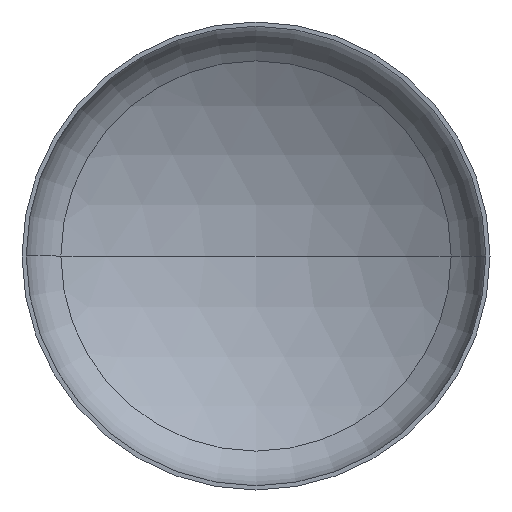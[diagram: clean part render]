
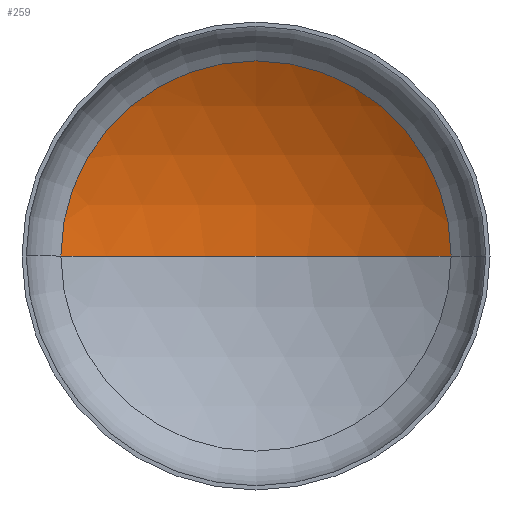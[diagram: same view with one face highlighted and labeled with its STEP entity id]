
A CAD part, front view. The second image highlights one B-rep face of the part: STEP entity #259.
In plain terms, the highlighted spherical face has radius 3600 mm.
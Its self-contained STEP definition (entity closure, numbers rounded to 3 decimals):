
#5 = ORIENTED_EDGE ( 'NONE', *, *, #120, .F. ) ;
#22 = CARTESIAN_POINT ( 'NONE',  ( -1876.213, 723.15, 0. ) ) ;
#33 = AXIS2_PLACEMENT_3D ( 'NONE', #278, #35, #359 ) ;
#35 = DIRECTION ( 'NONE',  ( 0., 0., -1. ) ) ;
#37 = VERTEX_POINT ( 'NONE', #22 ) ;
#41 = AXIS2_PLACEMENT_3D ( 'NONE', #272, #276, #191 ) ;
#43 = AXIS2_PLACEMENT_3D ( 'NONE', #407, #174, #71 ) ;
#44 = VERTEX_POINT ( 'NONE', #324 ) ;
#46 = AXIS2_PLACEMENT_3D ( 'NONE', #175, #203, #198 ) ;
#57 = ORIENTED_EDGE ( 'NONE', *, *, #114, .T. ) ;
#59 = VERTEX_POINT ( 'NONE', #318 ) ;
#71 = DIRECTION ( 'NONE',  ( -1., 0., 0. ) ) ;
#83 = CIRCLE ( 'NONE', #46, 1876.213 ) ;
#93 = EDGE_LOOP ( 'NONE', ( #5, #150, #57 ) ) ;
#114 = EDGE_CURVE ( 'NONE', #59, #37, #83, .T. ) ;
#118 = EDGE_CURVE ( 'NONE', #44, #59, #370, .T. ) ;
#120 = EDGE_CURVE ( 'NONE', #44, #37, #317, .T. ) ;
#150 = ORIENTED_EDGE ( 'NONE', *, *, #118, .T. ) ;
#174 = DIRECTION ( 'NONE',  ( 0., 0., -1. ) ) ;
#175 = CARTESIAN_POINT ( 'NONE',  ( 0., 723.15, 0. ) ) ;
#191 = DIRECTION ( 'NONE',  ( 1., 0., 0. ) ) ;
#198 = DIRECTION ( 'NONE',  ( 1., 0., 0. ) ) ;
#203 = DIRECTION ( 'NONE',  ( 0., -1., 0. ) ) ;
#233 = SPHERICAL_SURFACE ( 'NONE', #33, 3600. ) ;
#259 = ADVANCED_FACE ( 'NONE', ( #410 ), #233, .F. ) ;
#272 = CARTESIAN_POINT ( 'NONE',  ( 0., -2349.28, 0. ) ) ;
#276 = DIRECTION ( 'NONE',  ( 0., 0., 1. ) ) ;
#278 = CARTESIAN_POINT ( 'NONE',  ( 0., -2349.28, 0. ) ) ;
#317 = CIRCLE ( 'NONE', #41, 3600. ) ;
#318 = CARTESIAN_POINT ( 'NONE',  ( 1876.213, 723.15, 0. ) ) ;
#324 = CARTESIAN_POINT ( 'NONE',  ( 0., 1250.72, 0. ) ) ;
#359 = DIRECTION ( 'NONE',  ( -1., 0., 0. ) ) ;
#370 = CIRCLE ( 'NONE', #43, 3600. ) ;
#407 = CARTESIAN_POINT ( 'NONE',  ( 0., -2349.28, 0. ) ) ;
#410 = FACE_OUTER_BOUND ( 'NONE', #93, .T. ) ;
